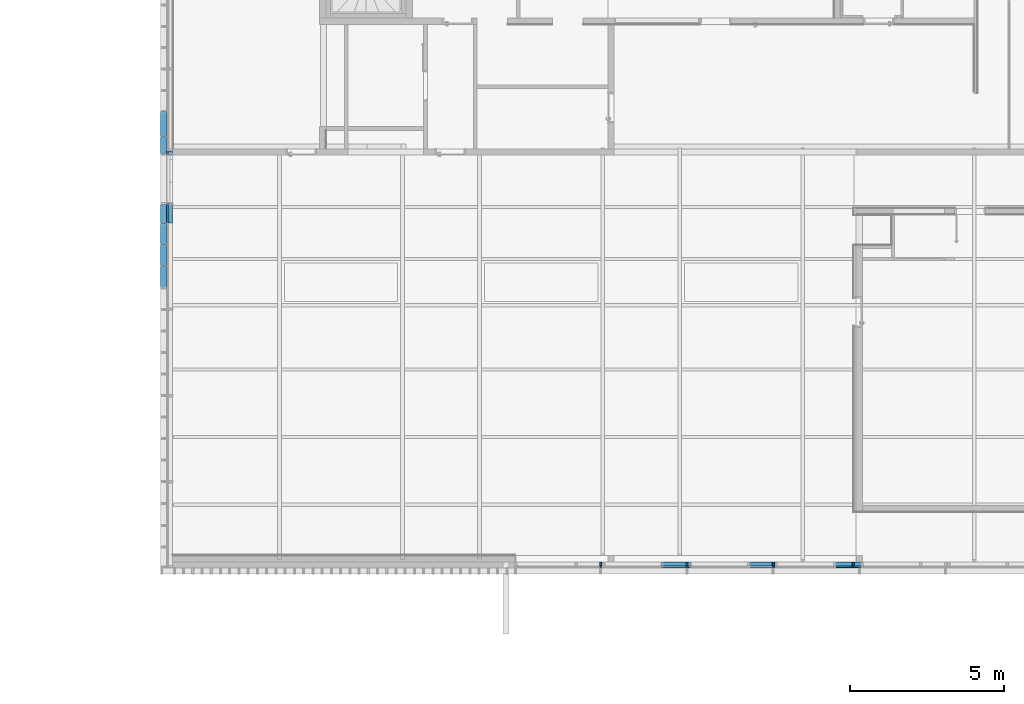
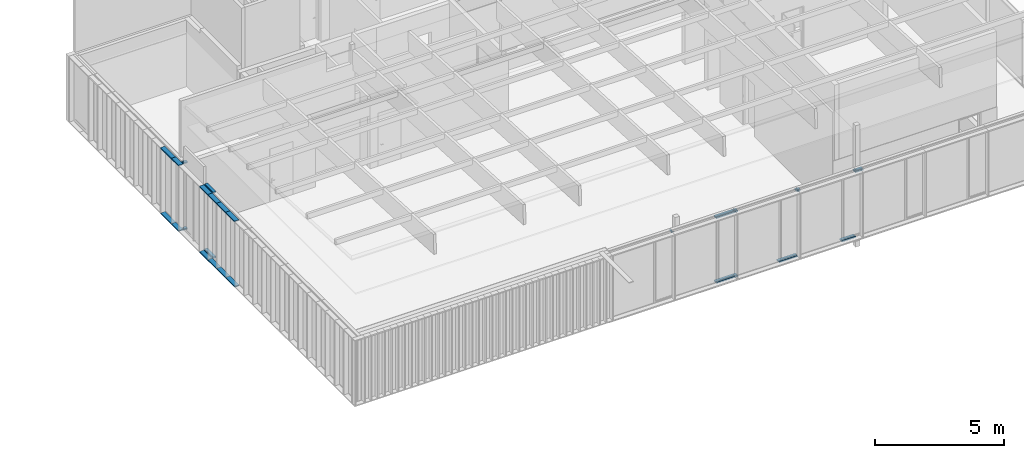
# One storey, part 33 of 240: 28 members, 4 elements without a shape of their own.
"""IFC2X3 building model written with IfcOpenShell, lengths in centimetres."""

from ifc_helpers import new_model, entity, si_unit, converted_unit, derived_unit, direction, frame, origin, origin_2d_with_axis, place, context, subcontext, project, spatial, polyline, rectangle, outline, extrude, source, transform, mapped, material, type_object, type_shapes, element, aggregate, save


model = new_model("IFC2X3")

# Units and contexts
model_context = context("Model", 3, precision=0.001, world=origin(), true_north=direction((6.12303176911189e-17, 1.0)))
body_context = subcontext(model_context, "Body", "Model", "MODEL_VIEW")
ifc_project = project(units=[si_unit("LENGTHUNIT", "METRE", prefix="CENTI"), si_unit("AREAUNIT", "SQUARE_METRE"), si_unit("VOLUMEUNIT", "CUBIC_METRE"), converted_unit("PLANEANGLEUNIT", "DEGREE", entity("IfcRatioMeasure", 0.0174532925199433), si_unit("PLANEANGLEUNIT", "RADIAN"), dimensions=[0, 0, 0, 0, 0, 0, 0]), si_unit("MASSUNIT", "GRAM", prefix="KILO"), derived_unit("MASSDENSITYUNIT", [(si_unit("MASSUNIT", "GRAM", prefix="KILO"), 1), (si_unit("LENGTHUNIT", "METRE"), -3)]), si_unit("TIMEUNIT", "SECOND"), si_unit("FREQUENCYUNIT", "HERTZ"), si_unit("THERMODYNAMICTEMPERATUREUNIT", "DEGREE_CELSIUS"), derived_unit("THERMALTRANSMITTANCEUNIT", [(si_unit("MASSUNIT", "GRAM", prefix="KILO"), 1), (si_unit("THERMODYNAMICTEMPERATUREUNIT", "KELVIN"), -1), (si_unit("TIMEUNIT", "SECOND"), -3)]), derived_unit("VOLUMETRICFLOWRATEUNIT", [(si_unit("LENGTHUNIT", "METRE"), 3), (si_unit("TIMEUNIT", "SECOND"), -1)]), si_unit("ELECTRICCURRENTUNIT", "AMPERE"), si_unit("ELECTRICVOLTAGEUNIT", "VOLT"), si_unit("POWERUNIT", "WATT"), si_unit("FORCEUNIT", "NEWTON", prefix="KILO"), si_unit("ILLUMINANCEUNIT", "LUX"), si_unit("LUMINOUSFLUXUNIT", "LUMEN"), si_unit("LUMINOUSINTENSITYUNIT", "CANDELA"), derived_unit("USERDEFINED", [(si_unit("MASSUNIT", "GRAM", prefix="KILO"), -1), (si_unit("LENGTHUNIT", "METRE"), -2), (si_unit("TIMEUNIT", "SECOND"), 3), (si_unit("LUMINOUSFLUXUNIT", "LUMEN"), 1)]), derived_unit("LINEARVELOCITYUNIT", [(si_unit("LENGTHUNIT", "METRE"), 1), (si_unit("TIMEUNIT", "SECOND"), -1)]), si_unit("PRESSUREUNIT", "PASCAL"), derived_unit("USERDEFINED", [(si_unit("LENGTHUNIT", "METRE"), -2), (si_unit("MASSUNIT", "GRAM", prefix="KILO"), 1), (si_unit("TIMEUNIT", "SECOND"), -2)])], contexts=[model_context])

# Site, building, storey
site_placement = place(None, frame((-2781.94577612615, 7442.24238424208, 0.0)))
site = spatial("IfcSite", under=ifc_project, at=site_placement, Name="Default", CompositionType="ELEMENT")
building_placement = place(site_placement, origin())
building = spatial("IfcBuilding", under=site, at=building_placement, CompositionType="ELEMENT")
storey_placement = place(building_placement, origin())
storey = spatial("IfcBuildingStorey", under=building, at=storey_placement, Name="N00 - COO", CompositionType="ELEMENT", Elevation=0.0)

# Curtain wall, members
curtain_wall_type_1 = type_object("IfcCurtainWallType", Name="Mur-rideau:07 - mur rideau trame 280 cm", PredefinedType="NOTDEFINED")
curtain_wall_1_placement = place(building_placement, origin())
curtain_wall_1 = element("IfcCurtainWall", 1, at=curtain_wall_1_placement, inside=storey, type_object=curtain_wall_type_1, Name="Mur-rideau:07 - mur rideau trame 280 cm", ObjectType="Mur-rideau:07 - mur rideau trame 280 cm")
ifc_material = material(Name="Aluminium")
member_type_1 = type_object("IfcMemberType", Name="150 x 25mm Détails", PredefinedType="MEMBER")
shared_shape_1 = source(origin(), body_context, "Body", "SweptSolid", [
    extrude(outline(polyline([(-13.3333333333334, -3.24999999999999), (0.166666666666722, -3.24999999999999), (0.166666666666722, -0.868749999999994), (3.66666666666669, -0.868749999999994), (3.66666666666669, -3.25), (5.66666666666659, -3.25), (5.66666666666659, 3.24999999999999), (3.66666666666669, 3.24999999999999), (3.66666666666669, 0.86874999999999), (0.166666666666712, 0.86874999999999), (0.166666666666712, 3.25000000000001), (-13.3333333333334, 3.25000000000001), (-13.3333333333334, -3.24999999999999)])), frame((-3.24999999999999, 1.96666666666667, -13.4999999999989), z_axis=(0.0, 0.0, 1.0), x_axis=(0.0, -1.0, 0.0)), (0.0, 0.0, 1.0), 13.4999999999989),
])
type_shapes(member_type_1, [shared_shape_1])
member_1_placement = place(building_placement, frame((-11860.6505746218, -4225.50027342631, 0.0), z_axis=(0.0, -1.0, 0.0), x_axis=(0.0, 0.0, -1.0)))
member_1 = element("IfcMember", 2, at=member_1_placement, type_object=member_type_1, material=ifc_material, Name="Meneau rectangulaire:150 x 25mm Détails", ObjectType="Meneau rectangulaire:150 x 25mm Détails", context=body_context, shape_type="MappedRepresentation", body=[
    mapped(shared_shape_1, transform((0.0, 0.0, 0.0), scale=1.0)),
])
member_type_2 = type_object("IfcMemberType", Name="150 x 25mm Détails", PredefinedType="MEMBER")
shared_shape_2 = source(origin(), body_context, "Body", "SweptSolid", [
    extrude(outline(polyline([(-13.3333333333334, -3.25000000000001), (0.166666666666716, -3.25000000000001), (0.166666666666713, -0.86874999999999), (3.66666666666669, -0.86874999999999), (3.66666666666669, -3.24999999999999), (5.66666666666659, -3.24999999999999), (5.66666666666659, 3.25), (3.66666666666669, 3.25), (3.66666666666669, 0.868749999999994), (0.166666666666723, 0.868749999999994), (0.166666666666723, 3.25000000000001), (-13.3333333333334, 3.24999999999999), (-13.3333333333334, -3.25000000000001)])), frame((-3.24999999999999, 1.96666666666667, -13.4999999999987), z_axis=(0.0, 0.0, 1.0), x_axis=(0.0, -1.0, 0.0)), (0.0, 0.0, 1.0), 13.4999999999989),
])
type_shapes(member_type_2, [shared_shape_2])
member_2_placement = place(building_placement, frame((-11860.6505746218, -4212.00027342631, 319.50860145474), z_axis=(0.0, 1.0, 0.0), x_axis=(0.0, 0.0, 1.0)))
member_2 = element("IfcMember", 3, at=member_2_placement, type_object=member_type_2, material=ifc_material, Name="Meneau rectangulaire:150 x 25mm Détails", ObjectType="Meneau rectangulaire:150 x 25mm Détails", context=body_context, shape_type="MappedRepresentation", body=[
    mapped(shared_shape_2, transform((0.0, 0.0, 0.0), scale=1.0)),
])
aggregate(curtain_wall_1, [member_1, member_2])

curtain_wall_type_2 = type_object("IfcCurtainWallType", Name="Mur-rideau:Epines - 200x50mm", PredefinedType="NOTDEFINED")
curtain_wall_2_placement = place(building_placement, origin())
curtain_wall_2 = element("IfcCurtainWall", 4, at=curtain_wall_2_placement, inside=storey, type_object=curtain_wall_type_2, Name="Mur-rideau:Epines - 200x50mm", ObjectType="Mur-rideau:Epines - 200x50mm")
member_type_3 = type_object("IfcMemberType", Name="200x50 mm", PredefinedType="MEMBER")
shared_shape_3 = source(origin(), body_context, "Body", "SweptSolid", [
    extrude(rectangle(XDim=20.0, YDim=5.0, at=origin_2d_with_axis()), frame((-2.5, 0.0, -70.0), z_axis=(0.0, 0.0, 1.0), x_axis=(0.0, -1.0, 0.0)), (0.0, 0.0, 1.0), 70.0000000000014),
])
type_shapes(member_type_3, [shared_shape_3])
member_3_placement = place(building_placement, frame((-11874.3505746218, -4586.50173438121, 313.0), z_axis=(0.0, 1.0, 0.0), x_axis=(0.0, 0.0, 1.0)))
member_3 = element("IfcMember", 5, at=member_3_placement, type_object=member_type_3, material=ifc_material, Name="Meneau rectangulaire:200x50 mm", ObjectType="Meneau rectangulaire:200x50 mm", context=body_context, shape_type="MappedRepresentation", body=[
    mapped(shared_shape_3, transform((0.0, 0.0, 0.0), scale=1.0)),
])
member_4_placement = place(building_placement, frame((-11874.3505746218, -4516.50173438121, 313.0), z_axis=(0.0, 1.0, 0.0), x_axis=(0.0, 0.0, 1.0)))
member_4 = element("IfcMember", 6, at=member_4_placement, type_object=member_type_3, material=ifc_material, Name="Meneau rectangulaire:200x50 mm", ObjectType="Meneau rectangulaire:200x50 mm", context=body_context, shape_type="MappedRepresentation", body=[
    mapped(shared_shape_3, transform((0.0, 0.0, 0.0), scale=1.0)),
])

curtain_wall_3_placement = place(building_placement, origin())
curtain_wall_3 = element("IfcCurtainWall", 7, at=curtain_wall_3_placement, inside=storey, type_object=curtain_wall_type_1, Name="Mur-rideau:07 - mur rideau trame 280 cm", ObjectType="Mur-rideau:07 - mur rideau trame 280 cm")
member_type_4 = type_object("IfcMemberType", Name="150 x 25mm Détails", PredefinedType="MEMBER")
shared_shape_4 = source(origin(), body_context, "Body", "SweptSolid", [
    extrude(outline(polyline([(-5.6666666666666, -3.24999999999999), (-3.66666666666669, -3.24999999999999), (-3.66666666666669, -0.868749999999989), (-0.166666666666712, -0.868749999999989), (-0.166666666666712, -3.25000000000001), (13.3333333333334, -3.25000000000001), (13.3333333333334, 3.24999999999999), (-0.16666666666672, 3.24999999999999), (-0.16666666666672, 0.868749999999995), (-3.66666666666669, 0.868749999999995), (-3.66666666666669, 3.25), (-5.6666666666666, 3.25), (-5.6666666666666, -3.24999999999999)])), frame((-3.24999999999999, -1.96666666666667, -13.2499999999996), z_axis=(0.0, 0.0, 1.0), x_axis=(0.0, -1.0, 0.0)), (0.0, 0.0, 1.0), 13.2499999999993),
])
type_shapes(member_type_4, [shared_shape_4])
member_5_placement = place(building_placement, frame((-10161.5667461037, -5562.80173441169, 6.5), z_axis=(1.0, 0.0, 0.0), x_axis=(0.0, 0.0, 1.0)))
member_5 = element("IfcMember", 8, at=member_5_placement, type_object=member_type_4, material=ifc_material, Name="Meneau rectangulaire:150 x 25mm Détails", ObjectType="Meneau rectangulaire:150 x 25mm Détails", context=body_context, shape_type="MappedRepresentation", body=[
    mapped(shared_shape_4, transform((0.0, 0.0, 0.0), scale=1.0)),
])
member_type_5 = type_object("IfcMemberType", Name="150 x 25mm Détails", PredefinedType="MEMBER")
shared_shape_5 = source(origin(), body_context, "Body", "SweptSolid", [
    extrude(outline(polyline([(-5.6666666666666, -3.24999999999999), (-3.66666666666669, -3.24999999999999), (-3.66666666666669, -0.868749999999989), (-0.166666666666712, -0.868749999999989), (-0.166666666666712, -3.25000000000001), (13.3333333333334, -3.25000000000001), (13.3333333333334, 3.24999999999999), (-0.16666666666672, 3.24999999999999), (-0.16666666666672, 0.868749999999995), (-3.66666666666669, 0.868749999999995), (-3.66666666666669, 3.25), (-5.6666666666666, 3.25), (-5.6666666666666, -3.24999999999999)])), frame((-3.24999999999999, -1.96666666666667, -83.2500000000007), z_axis=(0.0, 0.0, 1.0), x_axis=(0.0, -1.0, 0.0)), (0.0, 0.0, 1.0), 83.2500000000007),
])
type_shapes(member_type_5, [shared_shape_5])
member_6_placement = place(building_placement, frame((-10174.8167461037, -5562.80173441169, 6.5), z_axis=(1.0, 0.0, 0.0), x_axis=(0.0, 0.0, 1.0)))
member_6 = element("IfcMember", 9, at=member_6_placement, type_object=member_type_5, material=ifc_material, Name="Meneau rectangulaire:150 x 25mm Détails", ObjectType="Meneau rectangulaire:150 x 25mm Détails", context=body_context, shape_type="MappedRepresentation", body=[
    mapped(shared_shape_5, transform((0.0, 0.0, 0.0), scale=1.0)),
])
member_type_6 = type_object("IfcMemberType", Name="150 x 25mm Détails", PredefinedType="MEMBER")
shared_shape_6 = source(origin(), body_context, "Body", "SweptSolid", [
    extrude(outline(polyline([(-5.66666666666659, -3.25), (-3.66666666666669, -3.25), (-3.66666666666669, -0.868749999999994), (-0.166666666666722, -0.868749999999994), (-0.166666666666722, -3.25000000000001), (13.3333333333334, -3.24999999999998), (13.3333333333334, 3.25000000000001), (-0.166666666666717, 3.25000000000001), (-0.166666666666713, 0.868749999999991), (-3.66666666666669, 0.868749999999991), (-3.66666666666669, 3.24999999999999), (-5.66666666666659, 3.24999999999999), (-5.66666666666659, -3.25)])), frame((-3.24999999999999, -1.96666666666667, -83.250000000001), z_axis=(0.0, 0.0, 1.0), x_axis=(0.0, -1.0, 0.0)), (0.0, 0.0, 1.0), 83.2500000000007),
])
type_shapes(member_type_6, [shared_shape_6])
member_7_placement = place(building_placement, frame((-10258.0667461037, -5562.80173441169, 306.0), z_axis=(-1.0, 0.0, 0.0), x_axis=(0.0, 0.0, -1.0)))
member_7 = element("IfcMember", 10, at=member_7_placement, type_object=member_type_6, material=ifc_material, Name="Meneau rectangulaire:150 x 25mm Détails", ObjectType="Meneau rectangulaire:150 x 25mm Détails", context=body_context, shape_type="MappedRepresentation", body=[
    mapped(shared_shape_6, transform((0.0, 0.0, 0.0), scale=1.0)),
])
member_type_7 = type_object("IfcMemberType", Name="150 x 25mm Détails", PredefinedType="MEMBER")
shared_shape_7 = source(origin(), body_context, "Body", "SweptSolid", [
    extrude(outline(polyline([(-5.66666666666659, -3.25), (-3.66666666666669, -3.25), (-3.66666666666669, -0.868749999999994), (-0.166666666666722, -0.868749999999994), (-0.166666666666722, -3.25000000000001), (13.3333333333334, -3.24999999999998), (13.3333333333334, 3.25000000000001), (-0.166666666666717, 3.25000000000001), (-0.166666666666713, 0.868749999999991), (-3.66666666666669, 0.868749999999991), (-3.66666666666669, 3.24999999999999), (-5.66666666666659, 3.24999999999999), (-5.66666666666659, -3.25)])), frame((-3.24999999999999, -1.96666666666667, -13.2499999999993), z_axis=(0.0, 0.0, 1.0), x_axis=(0.0, -1.0, 0.0)), (0.0, 0.0, 1.0), 13.2499999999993),
])
type_shapes(member_type_7, [shared_shape_7])
member_8_placement = place(building_placement, frame((-10174.8167461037, -5562.80173441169, 306.0), z_axis=(-1.0, 0.0, 0.0), x_axis=(0.0, 0.0, -1.0)))
member_8 = element("IfcMember", 11, at=member_8_placement, type_object=member_type_7, material=ifc_material, Name="Meneau rectangulaire:150 x 25mm Détails", ObjectType="Meneau rectangulaire:150 x 25mm Détails", context=body_context, shape_type="MappedRepresentation", body=[
    mapped(shared_shape_7, transform((0.0, 0.0, 0.0), scale=1.0)),
])
member_type_8 = type_object("IfcMemberType", Name="150 x 25mm Détails", PredefinedType="MEMBER")
shared_shape_8 = source(origin(), body_context, "Body", "SweptSolid", [
    extrude(outline(polyline([(-5.6666666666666, -3.24999999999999), (-3.66666666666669, -3.24999999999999), (-3.66666666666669, -0.86874999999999), (-0.166666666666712, -0.86874999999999), (-0.166666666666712, -3.25000000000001), (13.3333333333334, -3.25000000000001), (13.3333333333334, 3.24999999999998), (-0.16666666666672, 3.24999999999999), (-0.16666666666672, 0.868749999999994), (-3.66666666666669, 0.868749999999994), (-3.66666666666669, 3.25), (-5.6666666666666, 3.25), (-5.6666666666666, -3.24999999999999)])), frame((0.0, -1.96666666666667, -0.508601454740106), z_axis=(0.0, 0.0, 1.0), x_axis=(0.0, -1.0, 0.0)), (0.0, 0.0, 1.0), 0.508601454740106),
])
type_shapes(member_type_8, [shared_shape_8])
member_9_placement = place(building_placement, frame((-10454.8167461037, -5562.80173441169, 312.5), z_axis=(0.0, 0.0, -1.0), x_axis=(1.0, 0.0, 0.0)))
member_9 = element("IfcMember", 12, at=member_9_placement, type_object=member_type_8, material=ifc_material, Name="Meneau rectangulaire:150 x 25mm Détails", ObjectType="Meneau rectangulaire:150 x 25mm Détails", context=body_context, shape_type="MappedRepresentation", body=[
    mapped(shared_shape_8, transform((0.0, 0.0, 0.0), scale=1.0)),
])
member_10_placement = place(building_placement, frame((-10174.8167461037, -5562.80173441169, 312.5), z_axis=(0.0, 0.0, -1.0), x_axis=(1.0, 0.0, 0.0)))
member_10 = element("IfcMember", 13, at=member_10_placement, type_object=member_type_8, material=ifc_material, Name="Meneau rectangulaire:150 x 25mm Détails", ObjectType="Meneau rectangulaire:150 x 25mm Détails", context=body_context, shape_type="MappedRepresentation", body=[
    mapped(shared_shape_8, transform((0.0, 0.0, 0.0), scale=1.0)),
])
member_11_placement = place(building_placement, frame((-9894.81674610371, -5562.80173441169, 312.5), z_axis=(0.0, 0.0, -1.0), x_axis=(1.0, 0.0, 0.0)))
member_11 = element("IfcMember", 14, at=member_11_placement, type_object=member_type_8, material=ifc_material, Name="Meneau rectangulaire:150 x 25mm Détails", ObjectType="Meneau rectangulaire:150 x 25mm Détails", context=body_context, shape_type="MappedRepresentation", body=[
    mapped(shared_shape_8, transform((0.0, 0.0, 0.0), scale=1.0)),
])
member_12_placement = place(building_placement, frame((-9634.81674610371, -5562.80173441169, 312.5), z_axis=(0.0, 0.0, -1.0), x_axis=(1.0, 0.0, 0.0)))
member_12 = element("IfcMember", 15, at=member_12_placement, type_object=member_type_8, material=ifc_material, Name="Meneau rectangulaire:150 x 25mm Détails", ObjectType="Meneau rectangulaire:150 x 25mm Détails", context=body_context, shape_type="MappedRepresentation", body=[
    mapped(shared_shape_8, transform((0.0, 0.0, 0.0), scale=1.0)),
])
member_type_9 = type_object("IfcMemberType", Name="150 x 25mm Détails", PredefinedType="MEMBER")
shared_shape_9 = source(origin(), body_context, "Body", "SweptSolid", [
    extrude(outline(polyline([(-5.6666666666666, -3.24999999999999), (-3.66666666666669, -3.24999999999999), (-3.66666666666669, -0.868749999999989), (-0.166666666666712, -0.868749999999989), (-0.166666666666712, -3.25000000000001), (13.3333333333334, -3.25000000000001), (13.3333333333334, 3.24999999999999), (-0.16666666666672, 3.24999999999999), (-0.16666666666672, 0.868749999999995), (-3.66666666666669, 0.868749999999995), (-3.66666666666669, 3.25), (-5.6666666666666, 3.25), (-5.6666666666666, -3.24999999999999)])), frame((-3.24999999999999, -1.96666666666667, -83.2500000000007), z_axis=(0.0, 0.0, 1.0), x_axis=(0.0, -1.0, 0.0)), (0.0, 0.0, 1.0), 83.2500000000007),
])
type_shapes(member_type_9, [shared_shape_9])
member_13_placement = place(building_placement, frame((-9894.81674610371, -5562.80173441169, 6.5), z_axis=(1.0, 0.0, 0.0), x_axis=(0.0, 0.0, 1.0)))
member_13 = element("IfcMember", 16, at=member_13_placement, type_object=member_type_9, material=ifc_material, Name="Meneau rectangulaire:150 x 25mm Détails", ObjectType="Meneau rectangulaire:150 x 25mm Détails", context=body_context, shape_type="MappedRepresentation", body=[
    mapped(shared_shape_9, transform((0.0, 0.0, 0.0), scale=1.0)),
])
member_type_10 = type_object("IfcMemberType", Name="150 x 25mm Détails", PredefinedType="MEMBER")
shared_shape_10 = source(origin(), body_context, "Body", "SweptSolid", [
    extrude(outline(polyline([(-5.6666666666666, -3.24999999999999), (-3.66666666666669, -3.24999999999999), (-3.66666666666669, -0.868749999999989), (-0.166666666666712, -0.868749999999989), (-0.166666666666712, -3.25000000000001), (13.3333333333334, -3.25000000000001), (13.3333333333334, 3.24999999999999), (-0.16666666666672, 3.24999999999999), (-0.16666666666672, 0.868749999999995), (-3.66666666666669, 0.868749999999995), (-3.66666666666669, 3.25), (-5.6666666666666, 3.25), (-5.6666666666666, -3.24999999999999)])), frame((-3.24999999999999, -1.96666666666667, -63.2500000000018), z_axis=(0.0, 0.0, 1.0), x_axis=(0.0, -1.0, 0.0)), (0.0, 0.0, 1.0), 63.2500000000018),
])
type_shapes(member_type_10, [shared_shape_10])
member_14_placement = place(building_placement, frame((-9634.81674610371, -5562.80173441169, 6.5), z_axis=(1.0, 0.0, 0.0), x_axis=(0.0, 0.0, 1.0)))
member_14 = element("IfcMember", 17, at=member_14_placement, type_object=member_type_10, material=ifc_material, Name="Meneau rectangulaire:150 x 25mm Détails", ObjectType="Meneau rectangulaire:150 x 25mm Détails", context=body_context, shape_type="MappedRepresentation", body=[
    mapped(shared_shape_10, transform((0.0, 0.0, 0.0), scale=1.0)),
])
member_type_11 = type_object("IfcMemberType", Name="150 x 25mm Détails", PredefinedType="MEMBER")
shared_shape_11 = source(origin(), body_context, "Body", "SweptSolid", [
    extrude(outline(polyline([(-5.66666666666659, -3.25), (-3.66666666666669, -3.25), (-3.66666666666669, -0.868749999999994), (-0.166666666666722, -0.868749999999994), (-0.166666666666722, -3.25000000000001), (13.3333333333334, -3.24999999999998), (13.3333333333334, 3.25000000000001), (-0.166666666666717, 3.25000000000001), (-0.166666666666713, 0.868749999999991), (-3.66666666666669, 0.868749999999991), (-3.66666666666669, 3.24999999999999), (-5.66666666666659, 3.24999999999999), (-5.66666666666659, -3.25)])), frame((-3.24999999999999, -1.96666666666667, -16.4999999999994), z_axis=(0.0, 0.0, 1.0), x_axis=(0.0, -1.0, 0.0)), (0.0, 0.0, 1.0), 16.4999999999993),
])
type_shapes(member_type_11, [shared_shape_11])
member_15_placement = place(building_placement, frame((-9898.06674610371, -5562.80173441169, 306.0), z_axis=(-1.0, 0.0, 0.0), x_axis=(0.0, 0.0, -1.0)))
member_15 = element("IfcMember", 18, at=member_15_placement, type_object=member_type_11, material=ifc_material, Name="Meneau rectangulaire:150 x 25mm Détails", ObjectType="Meneau rectangulaire:150 x 25mm Détails", context=body_context, shape_type="MappedRepresentation", body=[
    mapped(shared_shape_11, transform((0.0, 0.0, 0.0), scale=1.0)),
])
member_type_12 = type_object("IfcMemberType", Name="150 x 25mm Détails", PredefinedType="MEMBER")
shared_shape_12 = source(origin(), body_context, "Body", "SweptSolid", [
    extrude(outline(polyline([(-5.66666666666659, -3.25), (-3.66666666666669, -3.25), (-3.66666666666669, -0.868749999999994), (-0.166666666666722, -0.868749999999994), (-0.166666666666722, -3.25000000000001), (13.3333333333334, -3.24999999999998), (13.3333333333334, 3.25000000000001), (-0.166666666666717, 3.25000000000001), (-0.166666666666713, 0.868749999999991), (-3.66666666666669, 0.868749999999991), (-3.66666666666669, 3.24999999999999), (-5.66666666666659, 3.24999999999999), (-5.66666666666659, -3.25)])), frame((-3.24999999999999, -1.96666666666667, -36.4999999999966), z_axis=(0.0, 0.0, 1.0), x_axis=(0.0, -1.0, 0.0)), (0.0, 0.0, 1.0), 36.4999999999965),
])
type_shapes(member_type_12, [shared_shape_12])
member_16_placement = place(building_placement, frame((-9638.06674610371, -5562.80173441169, 306.0), z_axis=(-1.0, 0.0, 0.0), x_axis=(0.0, 0.0, -1.0)))
member_16 = element("IfcMember", 19, at=member_16_placement, type_object=member_type_12, material=ifc_material, Name="Meneau rectangulaire:150 x 25mm Détails", ObjectType="Meneau rectangulaire:150 x 25mm Détails", context=body_context, shape_type="MappedRepresentation", body=[
    mapped(shared_shape_12, transform((0.0, 0.0, 0.0), scale=1.0)),
])
aggregate(curtain_wall_3, [member_5, member_14, member_13, member_6, member_9, member_7, member_8, member_10, member_15, member_11, member_16, member_12])

curtain_wall_4_placement = place(building_placement, origin())
curtain_wall_4 = element("IfcCurtainWall", 20, at=curtain_wall_4_placement, inside=storey, type_object=curtain_wall_type_1, Name="Mur-rideau:07 - mur rideau trame 280 cm", ObjectType="Mur-rideau:07 - mur rideau trame 280 cm")
member_type_13 = type_object("IfcMemberType", Name="150 x 25mm Détails", PredefinedType="MEMBER")
shared_shape_13 = source(origin(), body_context, "Body", "SweptSolid", [
    extrude(outline(polyline([(-13.3333333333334, -3.25000000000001), (0.166666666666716, -3.25000000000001), (0.166666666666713, -0.86874999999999), (3.66666666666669, -0.86874999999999), (3.66666666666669, -3.24999999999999), (5.66666666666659, -3.24999999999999), (5.66666666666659, 3.25), (3.66666666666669, 3.25), (3.66666666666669, 0.868749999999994), (0.166666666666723, 0.868749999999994), (0.166666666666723, 3.25000000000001), (-13.3333333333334, 3.24999999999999), (-13.3333333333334, -3.25000000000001)])), frame((-3.24999999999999, 1.96666666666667, -66.0), z_axis=(0.0, 0.0, 1.0), x_axis=(0.0, -1.0, 0.0)), (0.0, 0.0, 1.0), 65.99999996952),
])
type_shapes(member_type_13, [shared_shape_13])
member_17_placement = place(building_placement, frame((-11860.6505746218, -4380.50173441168, 313.0), z_axis=(0.0, 1.0, 0.0), x_axis=(0.0, 0.0, 1.0)))
member_17 = element("IfcMember", 21, at=member_17_placement, type_object=member_type_13, material=ifc_material, Name="Meneau rectangulaire:150 x 25mm Détails", ObjectType="Meneau rectangulaire:150 x 25mm Détails", context=body_context, shape_type="MappedRepresentation", body=[
    mapped(shared_shape_13, transform((0.0, 0.0, 0.0), scale=1.0)),
])
member_type_14 = type_object("IfcMemberType", Name="150 x 25mm Détails", PredefinedType="MEMBER")
shared_shape_14 = source(origin(), body_context, "Body", "SweptSolid", [
    extrude(outline(polyline([(-13.3333333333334, -3.24999999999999), (0.166666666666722, -3.24999999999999), (0.166666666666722, -0.868749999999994), (3.66666666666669, -0.868749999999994), (3.66666666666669, -3.25), (5.66666666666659, -3.25), (5.66666666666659, 3.24999999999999), (3.66666666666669, 3.24999999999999), (3.66666666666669, 0.86874999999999), (0.166666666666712, 0.86874999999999), (0.166666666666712, 3.25000000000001), (-13.3333333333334, 3.25000000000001), (-13.3333333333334, -3.24999999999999)])), frame((-3.24999999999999, 1.96666666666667, -66.0), z_axis=(0.0, 0.0, 1.0), x_axis=(0.0, -1.0, 0.0)), (0.0, 0.0, 1.0), 65.99999996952),
])
type_shapes(member_type_14, [shared_shape_14])
member_18_placement = place(building_placement, frame((-11860.6505746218, -4446.5017343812, 0.0), z_axis=(0.0, -1.0, 0.0), x_axis=(0.0, 0.0, -1.0)))
member_18 = element("IfcMember", 22, at=member_18_placement, type_object=member_type_14, material=ifc_material, Name="Meneau rectangulaire:150 x 25mm Détails", ObjectType="Meneau rectangulaire:150 x 25mm Détails", context=body_context, shape_type="MappedRepresentation", body=[
    mapped(shared_shape_14, transform((0.0, 0.0, 0.0), scale=1.0)),
])
aggregate(curtain_wall_4, [member_17, member_18])

# Member
member_type_15 = type_object("IfcMemberType", Name="200x50 mm", PredefinedType="MEMBER")
shared_shape_15 = source(origin(), body_context, "Body", "SweptSolid", [
    extrude(rectangle(XDim=20.0, YDim=5.0, at=origin_2d_with_axis()), frame((-2.5, 0.0, -70.0), z_axis=(0.0, 0.0, 1.0), x_axis=(0.0, -1.0, 0.0)), (0.0, 0.0, 1.0), 69.9999999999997),
])
type_shapes(member_type_15, [shared_shape_15])
member_19_placement = place(building_placement, frame((-11874.3505746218, -4656.50173438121, 0.0), z_axis=(0.0, -1.0, 0.0), x_axis=(0.0, 0.0, -1.0)))
member_19 = element("IfcMember", 23, at=member_19_placement, type_object=member_type_15, material=ifc_material, Name="Meneau rectangulaire:200x50 mm", ObjectType="Meneau rectangulaire:200x50 mm", context=body_context, shape_type="MappedRepresentation", body=[
    mapped(shared_shape_15, transform((0.0, 0.0, 0.0), scale=1.0)),
])

member_20_placement = place(building_placement, frame((-11874.3505746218, -4586.50173438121, 0.0), z_axis=(0.0, -1.0, 0.0), x_axis=(0.0, 0.0, -1.0)))
member_20 = element("IfcMember", 24, at=member_20_placement, type_object=member_type_15, material=ifc_material, Name="Meneau rectangulaire:200x50 mm", ObjectType="Meneau rectangulaire:200x50 mm", context=body_context, shape_type="MappedRepresentation", body=[
    mapped(shared_shape_15, transform((0.0, 0.0, 0.0), scale=1.0)),
])

member_type_16 = type_object("IfcMemberType", Name="200x50 mm", PredefinedType="MEMBER")
shared_shape_16 = source(origin(), body_context, "Body", "SweptSolid", [
    extrude(rectangle(XDim=20.0, YDim=5.0, at=origin_2d_with_axis()), frame((-2.5, 0.0, -68.0), z_axis=(0.0, 0.0, 1.0), x_axis=(0.0, -1.0, 0.0)), (0.0, 0.0, 1.0), 67.9999999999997),
])
type_shapes(member_type_16, [shared_shape_16])
member_21_placement = place(building_placement, frame((-11874.3505746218, -4516.50173438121, 0.0), z_axis=(0.0, -1.0, 0.0), x_axis=(0.0, 0.0, -1.0)))
member_21 = element("IfcMember", 25, at=member_21_placement, type_object=member_type_16, material=ifc_material, Name="Meneau rectangulaire:200x50 mm", ObjectType="Meneau rectangulaire:200x50 mm", context=body_context, shape_type="MappedRepresentation", body=[
    mapped(shared_shape_16, transform((0.0, 0.0, 0.0), scale=1.0)),
])

member_type_17 = type_object("IfcMemberType", Name="200x50 mm", PredefinedType="MEMBER")
shared_shape_17 = source(origin(), body_context, "Body", "SweptSolid", [
    extrude(rectangle(XDim=20.0, YDim=5.0, at=origin_2d_with_axis()), frame((-2.5, 0.0, -68.0), z_axis=(0.0, 0.0, 1.0), x_axis=(0.0, -1.0, 0.0)), (0.0, 0.0, 1.0), 68.0000000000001),
])
type_shapes(member_type_17, [shared_shape_17])
member_22_placement = place(building_placement, frame((-11874.3505746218, -4448.50173438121, 313.0), z_axis=(0.0, 1.0, 0.0), x_axis=(0.0, 0.0, 1.0)))
member_22 = element("IfcMember", 26, at=member_22_placement, type_object=member_type_17, material=ifc_material, Name="Meneau rectangulaire:200x50 mm", ObjectType="Meneau rectangulaire:200x50 mm", context=body_context, shape_type="MappedRepresentation", body=[
    mapped(shared_shape_17, transform((0.0, 0.0, 0.0), scale=1.0)),
])

member_type_18 = type_object("IfcMemberType", Name="200x50 mm", PredefinedType="MEMBER")
shared_shape_18 = source(origin(), body_context, "Body", "SweptSolid", [
    extrude(rectangle(XDim=20.0, YDim=5.0, at=origin_2d_with_axis()), frame((-2.5, 0.0, -64.7499999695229), z_axis=(0.0, 0.0, 1.0), x_axis=(0.0, -1.0, 0.0)), (0.0, 0.0, 1.0), 64.7499999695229),
])
type_shapes(member_type_18, [shared_shape_18])
member_23_placement = place(building_placement, frame((-11874.3505746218, -4448.50173438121, 0.0), z_axis=(0.0, -1.0, 0.0), x_axis=(0.0, 0.0, -1.0)))
member_23 = element("IfcMember", 27, at=member_23_placement, type_object=member_type_18, material=ifc_material, Name="Meneau rectangulaire:200x50 mm", ObjectType="Meneau rectangulaire:200x50 mm", context=body_context, shape_type="MappedRepresentation", body=[
    mapped(shared_shape_18, transform((0.0, 0.0, 0.0), scale=1.0)),
])

member_type_19 = type_object("IfcMemberType", Name="200x50 mm", PredefinedType="MEMBER")
shared_shape_19 = source(origin(), body_context, "Body", "SweptSolid", [
    extrude(rectangle(XDim=20.0, YDim=5.0, at=origin_2d_with_axis()), frame((-2.5, 0.0, -64.7499999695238), z_axis=(0.0, 0.0, 1.0), x_axis=(0.0, -1.0, 0.0)), (0.0, 0.0, 1.0), 64.7499999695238),
])
type_shapes(member_type_19, [shared_shape_19])
member_24_placement = place(building_placement, frame((-11874.3505746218, -4383.75173441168, 313.0), z_axis=(0.0, 1.0, 0.0), x_axis=(0.0, 0.0, 1.0)))
member_24 = element("IfcMember", 28, at=member_24_placement, type_object=member_type_19, material=ifc_material, Name="Meneau rectangulaire:200x50 mm", ObjectType="Meneau rectangulaire:200x50 mm", context=body_context, shape_type="MappedRepresentation", body=[
    mapped(shared_shape_19, transform((0.0, 0.0, 0.0), scale=1.0)),
])

member_type_20 = type_object("IfcMemberType", Name="200x50 mm", PredefinedType="MEMBER")
shared_shape_20 = source(origin(), body_context, "Body", "SweptSolid", [
    extrude(rectangle(XDim=20.0, YDim=5.0, at=origin_2d_with_axis()), frame((-2.5, 0.0, -55.2485390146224), z_axis=(0.0, 0.0, 1.0), x_axis=(0.0, -1.0, 0.0)), (0.0, 0.0, 1.0), 55.2485390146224),
])
type_shapes(member_type_20, [shared_shape_20])
member_25_placement = place(building_placement, frame((-11874.3505746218, -4167.00173441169, 313.0), z_axis=(0.0, 1.0, 0.0), x_axis=(0.0, 0.0, 1.0)))
member_25 = element("IfcMember", 29, at=member_25_placement, type_object=member_type_20, material=ifc_material, Name="Meneau rectangulaire:200x50 mm", ObjectType="Meneau rectangulaire:200x50 mm", context=body_context, shape_type="MappedRepresentation", body=[
    mapped(shared_shape_20, transform((0.0, 0.0, 0.0), scale=1.0)),
])

member_type_21 = type_object("IfcMemberType", Name="200x50 mm", PredefinedType="MEMBER")
shared_shape_21 = source(origin(), body_context, "Body", "SweptSolid", [
    extrude(rectangle(XDim=20.0, YDim=5.0, at=origin_2d_with_axis()), frame((-2.5, 0.0, -83.50146098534), z_axis=(0.0, 0.0, 1.0), x_axis=(0.0, -1.0, 0.0)), (0.0, 0.0, 1.0), 83.50146098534),
])
type_shapes(member_type_21, [shared_shape_21])
member_26_placement = place(building_placement, frame((-11874.3505746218, -4167.00173441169, 0.0), z_axis=(0.0, -1.0, 0.0), x_axis=(0.0, 0.0, -1.0)))
member_26 = element("IfcMember", 30, at=member_26_placement, type_object=member_type_21, material=ifc_material, Name="Meneau rectangulaire:200x50 mm", ObjectType="Meneau rectangulaire:200x50 mm", context=body_context, shape_type="MappedRepresentation", body=[
    mapped(shared_shape_21, transform((0.0, 0.0, 0.0), scale=1.0)),
])

member_type_22 = type_object("IfcMemberType", Name="200x50 mm", PredefinedType="MEMBER")
shared_shape_22 = source(origin(), body_context, "Body", "SweptSolid", [
    extrude(rectangle(XDim=20.0, YDim=5.0, at=origin_2d_with_axis()), frame((-2.5, 0.0, -83.50146098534), z_axis=(0.0, 0.0, 1.0), x_axis=(0.0, -1.0, 0.0)), (0.0, 0.0, 1.0), 83.50146098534),
])
type_shapes(member_type_22, [shared_shape_22])
member_27_placement = place(building_placement, frame((-11874.3505746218, -4083.50027342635, 313.0), z_axis=(0.0, 1.0, 0.0), x_axis=(0.0, 0.0, 1.0)))
member_27 = element("IfcMember", 31, at=member_27_placement, type_object=member_type_22, material=ifc_material, Name="Meneau rectangulaire:200x50 mm", ObjectType="Meneau rectangulaire:200x50 mm", context=body_context, shape_type="MappedRepresentation", body=[
    mapped(shared_shape_22, transform((0.0, 0.0, 0.0), scale=1.0)),
])

member_type_23 = type_object("IfcMemberType", Name="200x50 mm", PredefinedType="MEMBER")
shared_shape_23 = source(origin(), body_context, "Body", "SweptSolid", [
    extrude(rectangle(XDim=20.0, YDim=5.0, at=origin_2d_with_axis()), frame((-2.5, 0.0, -55.2485390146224), z_axis=(0.0, 0.0, 1.0), x_axis=(0.0, -1.0, 0.0)), (0.0, 0.0, 1.0), 55.2485390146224),
])
type_shapes(member_type_23, [shared_shape_23])
member_28_placement = place(building_placement, frame((-11874.3505746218, -4222.25027342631, 0.0), z_axis=(0.0, -1.0, 0.0), x_axis=(0.0, 0.0, -1.0)))
member_28 = element("IfcMember", 32, at=member_28_placement, type_object=member_type_23, material=ifc_material, Name="Meneau rectangulaire:200x50 mm", ObjectType="Meneau rectangulaire:200x50 mm", context=body_context, shape_type="MappedRepresentation", body=[
    mapped(shared_shape_23, transform((0.0, 0.0, 0.0), scale=1.0)),
])

aggregate(curtain_wall_2, [member_19, member_3, member_20, member_4, member_21, member_22, member_23, member_24, member_25, member_26, member_27, member_28])

save(model, "model.ifc")
